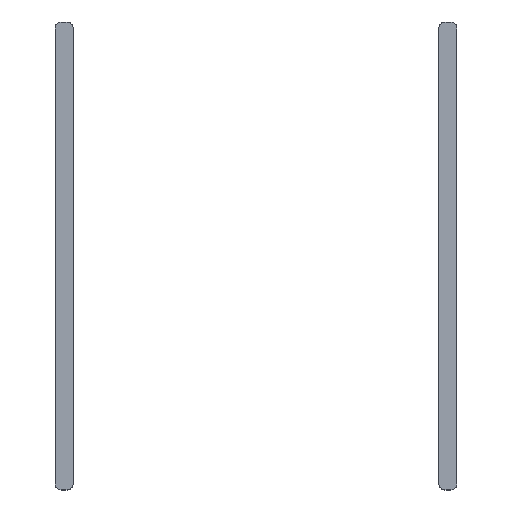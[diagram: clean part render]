
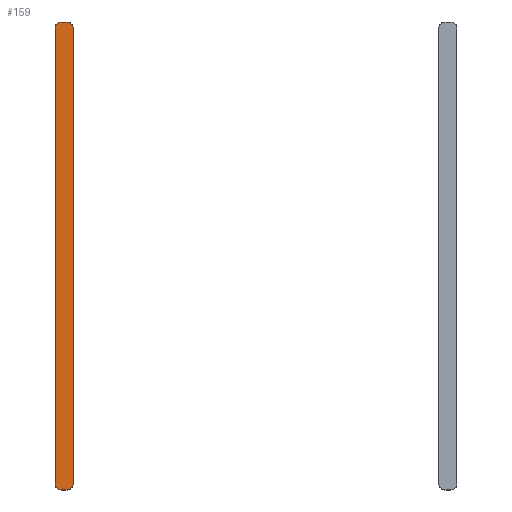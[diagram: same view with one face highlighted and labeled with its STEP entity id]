
A CAD part, top view. The second image highlights one B-rep face of the part: STEP entity #159.
In plain terms, the highlighted planar face has unit normal (0, 0, 1).
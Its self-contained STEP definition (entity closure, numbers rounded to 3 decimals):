
#43 = EDGE_CURVE('',#44,#46,#48,.T.);
#44 = VERTEX_POINT('',#45);
#45 = CARTESIAN_POINT('',(-33.5,-33.,10.95));
#46 = VERTEX_POINT('',#47);
#47 = CARTESIAN_POINT('',(-33.5,43.,10.95));
#48 = SURFACE_CURVE('',#49,(#53,#65),.PCURVE_S1.);
#49 = LINE('',#50,#51);
#50 = CARTESIAN_POINT('',(-33.5,-34.,10.95));
#51 = VECTOR('',#52,1.);
#52 = DIRECTION('',(0.,1.,0.));
#53 = PCURVE('',#54,#59);
#54 = PLANE('',#55);
#55 = AXIS2_PLACEMENT_3D('',#56,#57,#58);
#56 = CARTESIAN_POINT('',(-33.5,-34.,10.85));
#57 = DIRECTION('',(1.,0.,0.));
#58 = DIRECTION('',(0.,0.,1.));
#59 = DEFINITIONAL_REPRESENTATION('',(#60),#64);
#60 = LINE('',#61,#62);
#61 = CARTESIAN_POINT('',(0.1,0.));
#62 = VECTOR('',#63,1.);
#63 = DIRECTION('',(0.,-1.));
#64 = ( GEOMETRIC_REPRESENTATION_CONTEXT(2) 
PARAMETRIC_REPRESENTATION_CONTEXT() REPRESENTATION_CONTEXT('2D SPACE',''
  ) );
#65 = PCURVE('',#66,#71);
#66 = PLANE('',#67);
#67 = AXIS2_PLACEMENT_3D('',#68,#69,#70);
#68 = CARTESIAN_POINT('',(-33.5,-34.,10.95));
#69 = DIRECTION('',(0.,0.,1.));
#70 = DIRECTION('',(1.,0.,0.));
#71 = DEFINITIONAL_REPRESENTATION('',(#72),#76);
#72 = LINE('',#73,#74);
#73 = CARTESIAN_POINT('',(0.,0.));
#74 = VECTOR('',#75,1.);
#75 = DIRECTION('',(0.,1.));
#76 = ( GEOMETRIC_REPRESENTATION_CONTEXT(2) 
PARAMETRIC_REPRESENTATION_CONTEXT() REPRESENTATION_CONTEXT('2D SPACE',''
  ) );
#94 = CYLINDRICAL_SURFACE('',#95,1.);
#95 = AXIS2_PLACEMENT_3D('',#96,#97,#98);
#96 = CARTESIAN_POINT('',(-32.5,-33.,10.85));
#97 = DIRECTION('',(0.,0.,1.));
#98 = DIRECTION('',(-1.,-0.,0.));
#148 = CYLINDRICAL_SURFACE('',#149,1.);
#149 = AXIS2_PLACEMENT_3D('',#150,#151,#152);
#150 = CARTESIAN_POINT('',(-32.5,43.,10.85));
#151 = DIRECTION('',(0.,0.,1.));
#152 = DIRECTION('',(-1.,-0.,0.));
#159 = ADVANCED_FACE('',(#160),#66,.T.);
#160 = FACE_BOUND('',#161,.T.);
#161 = EDGE_LOOP('',(#162,#163,#187,#215,#248,#276,#305,#333));
#162 = ORIENTED_EDGE('',*,*,#43,.F.);
#163 = ORIENTED_EDGE('',*,*,#164,.T.);
#164 = EDGE_CURVE('',#44,#165,#167,.T.);
#165 = VERTEX_POINT('',#166);
#166 = CARTESIAN_POINT('',(-32.5,-34.,10.95));
#167 = SURFACE_CURVE('',#168,(#173,#180),.PCURVE_S1.);
#168 = CIRCLE('',#169,1.);
#169 = AXIS2_PLACEMENT_3D('',#170,#171,#172);
#170 = CARTESIAN_POINT('',(-32.5,-33.,10.95));
#171 = DIRECTION('',(0.,0.,1.));
#172 = DIRECTION('',(0.,-1.,0.));
#173 = PCURVE('',#66,#174);
#174 = DEFINITIONAL_REPRESENTATION('',(#175),#179);
#175 = CIRCLE('',#176,1.);
#176 = AXIS2_PLACEMENT_2D('',#177,#178);
#177 = CARTESIAN_POINT('',(1.,1.));
#178 = DIRECTION('',(0.,-1.));
#179 = ( GEOMETRIC_REPRESENTATION_CONTEXT(2) 
PARAMETRIC_REPRESENTATION_CONTEXT() REPRESENTATION_CONTEXT('2D SPACE',''
  ) );
#180 = PCURVE('',#94,#181);
#181 = DEFINITIONAL_REPRESENTATION('',(#182),#186);
#182 = LINE('',#183,#184);
#183 = CARTESIAN_POINT('',(-4.712,0.1));
#184 = VECTOR('',#185,1.);
#185 = DIRECTION('',(1.,0.));
#186 = ( GEOMETRIC_REPRESENTATION_CONTEXT(2) 
PARAMETRIC_REPRESENTATION_CONTEXT() REPRESENTATION_CONTEXT('2D SPACE',''
  ) );
#187 = ORIENTED_EDGE('',*,*,#188,.T.);
#188 = EDGE_CURVE('',#165,#189,#191,.T.);
#189 = VERTEX_POINT('',#190);
#190 = CARTESIAN_POINT('',(-31.5,-34.,10.95));
#191 = SURFACE_CURVE('',#192,(#196,#203),.PCURVE_S1.);
#192 = LINE('',#193,#194);
#193 = CARTESIAN_POINT('',(-33.5,-34.,10.95));
#194 = VECTOR('',#195,1.);
#195 = DIRECTION('',(1.,0.,0.));
#196 = PCURVE('',#66,#197);
#197 = DEFINITIONAL_REPRESENTATION('',(#198),#202);
#198 = LINE('',#199,#200);
#199 = CARTESIAN_POINT('',(0.,0.));
#200 = VECTOR('',#201,1.);
#201 = DIRECTION('',(1.,0.));
#202 = ( GEOMETRIC_REPRESENTATION_CONTEXT(2) 
PARAMETRIC_REPRESENTATION_CONTEXT() REPRESENTATION_CONTEXT('2D SPACE',''
  ) );
#203 = PCURVE('',#204,#209);
#204 = PLANE('',#205);
#205 = AXIS2_PLACEMENT_3D('',#206,#207,#208);
#206 = CARTESIAN_POINT('',(-33.5,-34.,10.85));
#207 = DIRECTION('',(0.,1.,0.));
#208 = DIRECTION('',(0.,0.,1.));
#209 = DEFINITIONAL_REPRESENTATION('',(#210),#214);
#210 = LINE('',#211,#212);
#211 = CARTESIAN_POINT('',(0.1,0.));
#212 = VECTOR('',#213,1.);
#213 = DIRECTION('',(0.,1.));
#214 = ( GEOMETRIC_REPRESENTATION_CONTEXT(2) 
PARAMETRIC_REPRESENTATION_CONTEXT() REPRESENTATION_CONTEXT('2D SPACE',''
  ) );
#215 = ORIENTED_EDGE('',*,*,#216,.F.);
#216 = EDGE_CURVE('',#217,#189,#219,.T.);
#217 = VERTEX_POINT('',#218);
#218 = CARTESIAN_POINT('',(-30.5,-33.,10.95));
#219 = SURFACE_CURVE('',#220,(#225,#236),.PCURVE_S1.);
#220 = CIRCLE('',#221,1.);
#221 = AXIS2_PLACEMENT_3D('',#222,#223,#224);
#222 = CARTESIAN_POINT('',(-31.5,-33.,10.95));
#223 = DIRECTION('',(-0.,-0.,-1.));
#224 = DIRECTION('',(0.,-1.,0.));
#225 = PCURVE('',#66,#226);
#226 = DEFINITIONAL_REPRESENTATION('',(#227),#235);
#227 = ( BOUNDED_CURVE() B_SPLINE_CURVE(2,(#228,#229,#230,#231,#232,#233
,#234),.UNSPECIFIED.,.T.,.F.) B_SPLINE_CURVE_WITH_KNOTS((1,2,2,2,2,1),(
    -2.094,0.,2.094,4.189,6.283,
8.378),.UNSPECIFIED.) CURVE() GEOMETRIC_REPRESENTATION_ITEM() 
RATIONAL_B_SPLINE_CURVE((1.,0.5,1.,0.5,1.,0.5,1.)) REPRESENTATION_ITEM(
  '') );
#228 = CARTESIAN_POINT('',(2.,0.));
#229 = CARTESIAN_POINT('',(0.268,0.));
#230 = CARTESIAN_POINT('',(1.134,1.5));
#231 = CARTESIAN_POINT('',(2.,3.));
#232 = CARTESIAN_POINT('',(2.866,1.5));
#233 = CARTESIAN_POINT('',(3.732,0.));
#234 = CARTESIAN_POINT('',(2.,0.));
#235 = ( GEOMETRIC_REPRESENTATION_CONTEXT(2) 
PARAMETRIC_REPRESENTATION_CONTEXT() REPRESENTATION_CONTEXT('2D SPACE',''
  ) );
#236 = PCURVE('',#237,#242);
#237 = CYLINDRICAL_SURFACE('',#238,1.);
#238 = AXIS2_PLACEMENT_3D('',#239,#240,#241);
#239 = CARTESIAN_POINT('',(-31.5,-33.,10.85));
#240 = DIRECTION('',(0.,0.,1.));
#241 = DIRECTION('',(1.,0.,-0.));
#242 = DEFINITIONAL_REPRESENTATION('',(#243),#247);
#243 = LINE('',#244,#245);
#244 = CARTESIAN_POINT('',(4.712,0.1));
#245 = VECTOR('',#246,1.);
#246 = DIRECTION('',(-1.,0.));
#247 = ( GEOMETRIC_REPRESENTATION_CONTEXT(2) 
PARAMETRIC_REPRESENTATION_CONTEXT() REPRESENTATION_CONTEXT('2D SPACE',''
  ) );
#248 = ORIENTED_EDGE('',*,*,#249,.T.);
#249 = EDGE_CURVE('',#217,#250,#252,.T.);
#250 = VERTEX_POINT('',#251);
#251 = CARTESIAN_POINT('',(-30.5,43.,10.95));
#252 = SURFACE_CURVE('',#253,(#257,#264),.PCURVE_S1.);
#253 = LINE('',#254,#255);
#254 = CARTESIAN_POINT('',(-30.5,-34.,10.95));
#255 = VECTOR('',#256,1.);
#256 = DIRECTION('',(0.,1.,0.));
#257 = PCURVE('',#66,#258);
#258 = DEFINITIONAL_REPRESENTATION('',(#259),#263);
#259 = LINE('',#260,#261);
#260 = CARTESIAN_POINT('',(3.,0.));
#261 = VECTOR('',#262,1.);
#262 = DIRECTION('',(0.,1.));
#263 = ( GEOMETRIC_REPRESENTATION_CONTEXT(2) 
PARAMETRIC_REPRESENTATION_CONTEXT() REPRESENTATION_CONTEXT('2D SPACE',''
  ) );
#264 = PCURVE('',#265,#270);
#265 = PLANE('',#266);
#266 = AXIS2_PLACEMENT_3D('',#267,#268,#269);
#267 = CARTESIAN_POINT('',(-30.5,-34.,10.85));
#268 = DIRECTION('',(1.,0.,0.));
#269 = DIRECTION('',(0.,0.,1.));
#270 = DEFINITIONAL_REPRESENTATION('',(#271),#275);
#271 = LINE('',#272,#273);
#272 = CARTESIAN_POINT('',(0.1,0.));
#273 = VECTOR('',#274,1.);
#274 = DIRECTION('',(0.,-1.));
#275 = ( GEOMETRIC_REPRESENTATION_CONTEXT(2) 
PARAMETRIC_REPRESENTATION_CONTEXT() REPRESENTATION_CONTEXT('2D SPACE',''
  ) );
#276 = ORIENTED_EDGE('',*,*,#277,.T.);
#277 = EDGE_CURVE('',#250,#278,#280,.T.);
#278 = VERTEX_POINT('',#279);
#279 = CARTESIAN_POINT('',(-31.5,44.,10.95));
#280 = SURFACE_CURVE('',#281,(#286,#293),.PCURVE_S1.);
#281 = CIRCLE('',#282,1.);
#282 = AXIS2_PLACEMENT_3D('',#283,#284,#285);
#283 = CARTESIAN_POINT('',(-31.5,43.,10.95));
#284 = DIRECTION('',(0.,0.,1.));
#285 = DIRECTION('',(0.,-1.,0.));
#286 = PCURVE('',#66,#287);
#287 = DEFINITIONAL_REPRESENTATION('',(#288),#292);
#288 = CIRCLE('',#289,1.);
#289 = AXIS2_PLACEMENT_2D('',#290,#291);
#290 = CARTESIAN_POINT('',(2.,77.));
#291 = DIRECTION('',(0.,-1.));
#292 = ( GEOMETRIC_REPRESENTATION_CONTEXT(2) 
PARAMETRIC_REPRESENTATION_CONTEXT() REPRESENTATION_CONTEXT('2D SPACE',''
  ) );
#293 = PCURVE('',#294,#299);
#294 = CYLINDRICAL_SURFACE('',#295,1.);
#295 = AXIS2_PLACEMENT_3D('',#296,#297,#298);
#296 = CARTESIAN_POINT('',(-31.5,43.,10.85));
#297 = DIRECTION('',(0.,0.,1.));
#298 = DIRECTION('',(1.,0.,-0.));
#299 = DEFINITIONAL_REPRESENTATION('',(#300),#304);
#300 = LINE('',#301,#302);
#301 = CARTESIAN_POINT('',(-1.571,0.1));
#302 = VECTOR('',#303,1.);
#303 = DIRECTION('',(1.,0.));
#304 = ( GEOMETRIC_REPRESENTATION_CONTEXT(2) 
PARAMETRIC_REPRESENTATION_CONTEXT() REPRESENTATION_CONTEXT('2D SPACE',''
  ) );
#305 = ORIENTED_EDGE('',*,*,#306,.F.);
#306 = EDGE_CURVE('',#307,#278,#309,.T.);
#307 = VERTEX_POINT('',#308);
#308 = CARTESIAN_POINT('',(-32.5,44.,10.95));
#309 = SURFACE_CURVE('',#310,(#314,#321),.PCURVE_S1.);
#310 = LINE('',#311,#312);
#311 = CARTESIAN_POINT('',(-33.5,44.,10.95));
#312 = VECTOR('',#313,1.);
#313 = DIRECTION('',(1.,0.,0.));
#314 = PCURVE('',#66,#315);
#315 = DEFINITIONAL_REPRESENTATION('',(#316),#320);
#316 = LINE('',#317,#318);
#317 = CARTESIAN_POINT('',(0.,78.));
#318 = VECTOR('',#319,1.);
#319 = DIRECTION('',(1.,0.));
#320 = ( GEOMETRIC_REPRESENTATION_CONTEXT(2) 
PARAMETRIC_REPRESENTATION_CONTEXT() REPRESENTATION_CONTEXT('2D SPACE',''
  ) );
#321 = PCURVE('',#322,#327);
#322 = PLANE('',#323);
#323 = AXIS2_PLACEMENT_3D('',#324,#325,#326);
#324 = CARTESIAN_POINT('',(-33.5,44.,10.85));
#325 = DIRECTION('',(0.,1.,0.));
#326 = DIRECTION('',(0.,0.,1.));
#327 = DEFINITIONAL_REPRESENTATION('',(#328),#332);
#328 = LINE('',#329,#330);
#329 = CARTESIAN_POINT('',(0.1,0.));
#330 = VECTOR('',#331,1.);
#331 = DIRECTION('',(0.,1.));
#332 = ( GEOMETRIC_REPRESENTATION_CONTEXT(2) 
PARAMETRIC_REPRESENTATION_CONTEXT() REPRESENTATION_CONTEXT('2D SPACE',''
  ) );
#333 = ORIENTED_EDGE('',*,*,#334,.F.);
#334 = EDGE_CURVE('',#46,#307,#335,.T.);
#335 = SURFACE_CURVE('',#336,(#341,#352),.PCURVE_S1.);
#336 = CIRCLE('',#337,1.);
#337 = AXIS2_PLACEMENT_3D('',#338,#339,#340);
#338 = CARTESIAN_POINT('',(-32.5,43.,10.95));
#339 = DIRECTION('',(-0.,-0.,-1.));
#340 = DIRECTION('',(0.,-1.,0.));
#341 = PCURVE('',#66,#342);
#342 = DEFINITIONAL_REPRESENTATION('',(#343),#351);
#343 = ( BOUNDED_CURVE() B_SPLINE_CURVE(2,(#344,#345,#346,#347,#348,#349
,#350),.UNSPECIFIED.,.T.,.F.) B_SPLINE_CURVE_WITH_KNOTS((1,2,2,2,2,1),(
    -2.094,0.,2.094,4.189,6.283,
8.378),.UNSPECIFIED.) CURVE() GEOMETRIC_REPRESENTATION_ITEM() 
RATIONAL_B_SPLINE_CURVE((1.,0.5,1.,0.5,1.,0.5,1.)) REPRESENTATION_ITEM(
  '') );
#344 = CARTESIAN_POINT('',(1.,76.));
#345 = CARTESIAN_POINT('',(-0.732,76.));
#346 = CARTESIAN_POINT('',(0.134,77.5));
#347 = CARTESIAN_POINT('',(1.,79.));
#348 = CARTESIAN_POINT('',(1.866,77.5));
#349 = CARTESIAN_POINT('',(2.732,76.));
#350 = CARTESIAN_POINT('',(1.,76.));
#351 = ( GEOMETRIC_REPRESENTATION_CONTEXT(2) 
PARAMETRIC_REPRESENTATION_CONTEXT() REPRESENTATION_CONTEXT('2D SPACE',''
  ) );
#352 = PCURVE('',#148,#353);
#353 = DEFINITIONAL_REPRESENTATION('',(#354),#358);
#354 = LINE('',#355,#356);
#355 = CARTESIAN_POINT('',(1.571,0.1));
#356 = VECTOR('',#357,1.);
#357 = DIRECTION('',(-1.,0.));
#358 = ( GEOMETRIC_REPRESENTATION_CONTEXT(2) 
PARAMETRIC_REPRESENTATION_CONTEXT() REPRESENTATION_CONTEXT('2D SPACE',''
  ) );
